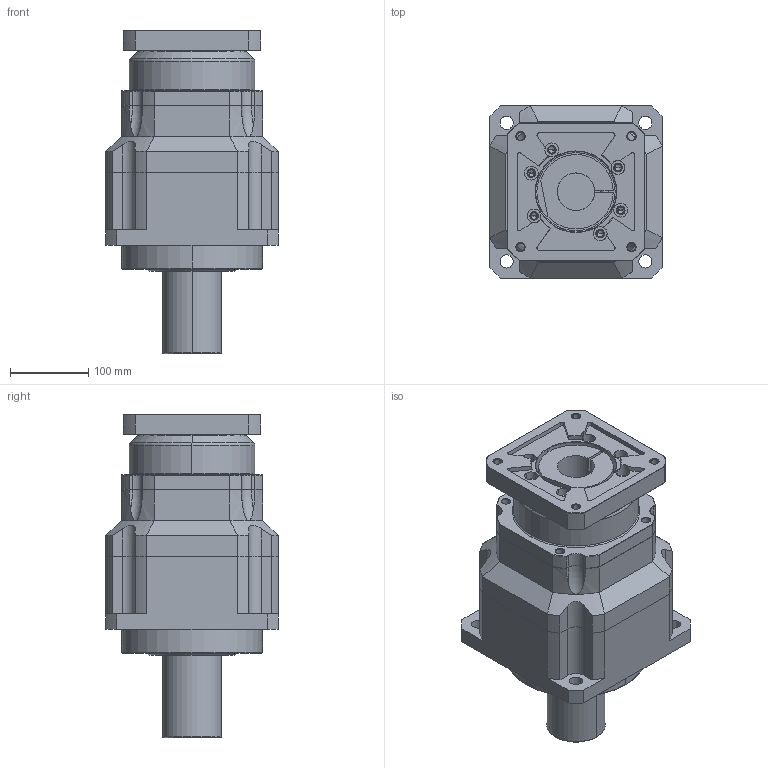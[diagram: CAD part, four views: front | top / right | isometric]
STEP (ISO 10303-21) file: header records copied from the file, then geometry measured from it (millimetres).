
FILE_DESCRIPTION((''),'2;1');
FILE_NAME('AB2202-P0403600401_ASM','2016-02-23T',('d00435'),(''),'PRO/ENGINEER BY PARAMETRIC TECHNOLOGY CORPORATION, 2008410','PRO/ENGINEER BY PARAMETRIC TECHNOLOGY CORPORATION, 2008410','');
FILE_SCHEMA(('CONFIG_CONTROL_DESIGN'));
Length unit declared in the file: millimetre
Products named in the file (5): AB2202; AB2202-1; P1301600001; P0403600401; AB2202-P0403600401_ASM
Assembly tree (4 placements, depth 2):
  AB2202-P0403600401_ASM
    AB2202
    AB2202-1
    P1301600001
    P0403600401
Bounding box: 220 x 220 x 412.5 mm (x, y, z)
Volume: 9638358.7 mm3; surface area: 598587.1 mm2
Topology: 4 solids, 16 shells, 504 faces, 1227 edges, 753 vertices
Faces by surface type: cylinder 207, plane 119, cone 108, torus 66, bspline 4
Entity records: 15416 total; most frequent: CARTESIAN_POINT 3143, DIRECTION 2765, ORIENTED_EDGE 2376, EDGE_CURVE 1213, AXIS2_PLACEMENT_3D 1128, VERTEX_POINT 753, CIRCLE 613, EDGE_LOOP 584
